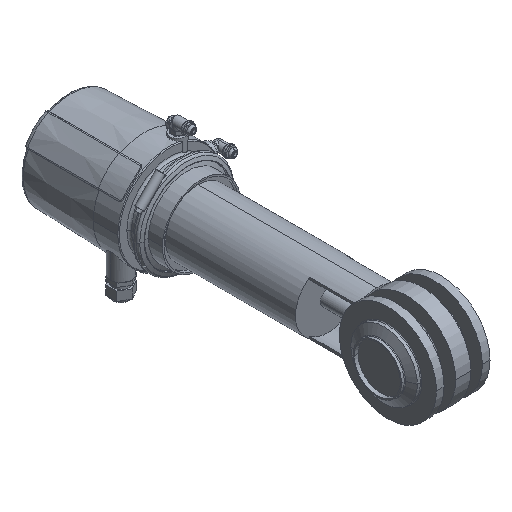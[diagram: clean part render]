
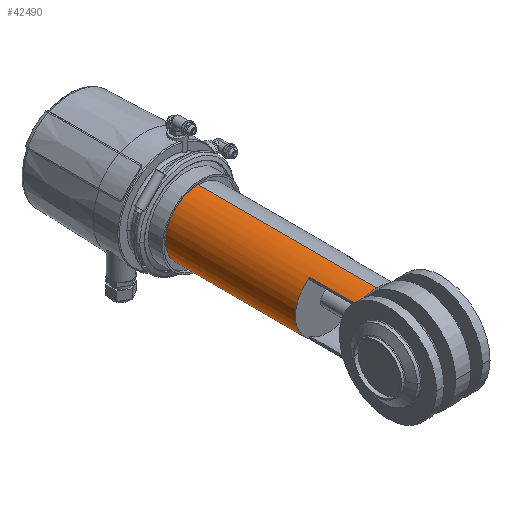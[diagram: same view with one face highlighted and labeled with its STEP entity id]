
A CAD part, isometric view. The second image highlights one B-rep face of the part: STEP entity #42490.
In plain terms, the highlighted cylindrical face has radius 42.5 mm (diameter 85 mm), a partial arc.
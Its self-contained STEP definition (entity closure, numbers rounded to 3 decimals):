
#11780=CARTESIAN_POINT('',(-406.622,30.802,
41.307));
#11790=VERTEX_POINT('',#11780);
#11820=CARTESIAN_POINT('',(-406.622,99.259,
41.307));
#11830=DIRECTION('',(0.,-1.,0.));
#11840=VECTOR('',#11830,1.);
#11850=LINE('',#11820,#11840);
#11860=CARTESIAN_POINT('',(-406.622,27.266,
41.307));
#11870=VERTEX_POINT('',#11860);
#11880=EDGE_CURVE('',#11790,#11870,#11850,.T.);
#31590=CARTESIAN_POINT('',(-405.974,27.914,
41.145));
#31600=VERTEX_POINT('',#31590);
#31640=CARTESIAN_POINT('',(-416.622,17.266,
0.));
#31650=DIRECTION('',(0.707,-0.707,0.));
#31660=DIRECTION('',(0.707,0.707,0.));
#31670=AXIS2_PLACEMENT_3D('',#31640,#31650,#31660);
#31680=ELLIPSE('',#31670,60.104,42.5);
#31690=EDGE_CURVE('',#31600,#11870,#31680,.T.);
#31790=CARTESIAN_POINT('',(-416.622,-333.208,
0.));
#31800=DIRECTION('',(0.,-0.113,0.994));
#31810=DIRECTION('',(0.,0.994,0.113));
#31820=AXIS2_PLACEMENT_3D('',#31790,#31800,#31810);
#31830=ELLIPSE('',#31820,375.431,42.5);
#31840=CARTESIAN_POINT('',(-404.122,23.311,
40.62));
#31850=VERTEX_POINT('',#31840);
#31860=EDGE_CURVE('',#31850,#31600,#31830,.T.);
#32120=CARTESIAN_POINT('',(-392.622,296.121,
35.075));
#32130=DIRECTION('',(0.,-1.,0.));
#32140=VECTOR('',#32130,1.);
#32150=LINE('',#32120,#32140);
#32160=CARTESIAN_POINT('',(-392.622,99.259,
35.075));
#32170=VERTEX_POINT('',#32160);
#32180=CARTESIAN_POINT('',(-392.622,41.266,
35.075));
#32190=VERTEX_POINT('',#32180);
#32200=EDGE_CURVE('',#32170,#32190,#32150,.T.);
#32830=CARTESIAN_POINT('',(-404.122,29.766,
40.62));
#32840=VERTEX_POINT('',#32830);
#32870=CARTESIAN_POINT('',(-416.622,17.266,
0.));
#32880=DIRECTION('',(-0.707,0.707,0.));
#32890=DIRECTION('',(-0.707,-0.707,0.));
#32900=AXIS2_PLACEMENT_3D('',#32870,#32880,#32890);
#32910=ELLIPSE('',#32900,60.104,42.5);
#32920=EDGE_CURVE('',#32840,#32190,#32910,.T.);
#34180=CARTESIAN_POINT('',(-416.622,99.259,
0.));
#34190=DIRECTION('',(0.,-1.,0.));
#34200=DIRECTION('',(0.,0.,-1.));
#34210=AXIS2_PLACEMENT_3D('',#34180,#34190,#34200);
#34220=CIRCLE('',#34210,42.5);
#34230=CARTESIAN_POINT('',(-392.622,99.259,
-35.075));
#34240=VERTEX_POINT('',#34230);
#34250=EDGE_CURVE('',#34240,#32170,#34220,.T.);
#35350=CARTESIAN_POINT('',(-404.122,33.302,
-40.62));
#35360=VERTEX_POINT('',#35350);
#35390=CARTESIAN_POINT('',(-416.622,20.802,
0.));
#35400=DIRECTION('',(-0.707,0.707,0.));
#35410=DIRECTION('',(0.707,0.707,0.));
#35420=AXIS2_PLACEMENT_3D('',#35390,#35400,#35410);
#35430=ELLIPSE('',#35420,60.104,42.5);
#35440=CARTESIAN_POINT('',(-401.564,35.859,
-39.743));
#35450=VERTEX_POINT('',#35440);
#35460=EDGE_CURVE('',#35450,#35360,#35430,.T.);
#36320=CARTESIAN_POINT('',(-404.122,29.766,
-40.62));
#36330=VERTEX_POINT('',#36320);
#36360=CARTESIAN_POINT('',(-404.122,296.121,
-40.62));
#36370=DIRECTION('',(0.,-1.,0.));
#36380=VECTOR('',#36370,1.);
#36390=LINE('',#36360,#36380);
#38120=CARTESIAN_POINT('',(-404.122,296.121,
40.62));
#38130=DIRECTION('',(0.,-1.,0.));
#38140=VECTOR('',#38130,1.);
#38150=LINE('',#38120,#38140);
#38160=EDGE_CURVE('',#32840,#31850,#38150,.T.);
#38810=EDGE_CURVE('',#35360,#36330,#36390,.T.);
#39650=CARTESIAN_POINT('',(-392.622,41.266,
-35.075));
#39660=VERTEX_POINT('',#39650);
#40030=CARTESIAN_POINT('',(-392.622,296.121,
-35.075));
#40040=DIRECTION('',(0.,-1.,0.));
#40050=VECTOR('',#40040,1.);
#40060=LINE('',#40030,#40050);
#40070=EDGE_CURVE('',#34240,#39660,#40060,.T.);
#41380=CARTESIAN_POINT('',(-416.622,17.266,
0.));
#41390=DIRECTION('',(0.707,-0.707,0.));
#41400=DIRECTION('',(-0.707,-0.707,0.));
#41410=AXIS2_PLACEMENT_3D('',#41380,#41390,#41400);
#41420=ELLIPSE('',#41410,60.104,42.5);
#41430=EDGE_CURVE('',#36330,#39660,#41420,.T.);
#41600=CARTESIAN_POINT('',(-416.622,35.859,
0.));
#41610=DIRECTION('',(0.,-1.,0.));
#41620=DIRECTION('',(0.,0.,-1.));
#41630=AXIS2_PLACEMENT_3D('',#41600,#41610,#41620);
#41640=CIRCLE('',#41630,42.5);
#41650=CARTESIAN_POINT('',(-416.622,35.859,-42.5));
#41660=VERTEX_POINT('',#41650);
#41670=EDGE_CURVE('',#41660,#35450,#41640,.T.);
#41890=CARTESIAN_POINT('',(-416.622,99.259,
0.));
#41900=DIRECTION('',(0.,-1.,0.));
#41910=DIRECTION('',(0.,0.,1.));
#41920=AXIS2_PLACEMENT_3D('',#41890,#41900,#41910);
#41930=CYLINDRICAL_SURFACE('',#41920,42.5);
#41940=ORIENTED_EDGE('',*,*,#35460,.F.);
#41950=ORIENTED_EDGE('',*,*,#38810,.F.);
#41960=ORIENTED_EDGE('',*,*,#41430,.F.);
#41970=ORIENTED_EDGE('',*,*,#40070,.T.);
#41980=ORIENTED_EDGE('',*,*,#34250,.F.);
#41990=ORIENTED_EDGE('',*,*,#32200,.F.);
#42000=ORIENTED_EDGE('',*,*,#32920,.T.);
#42010=ORIENTED_EDGE('',*,*,#38160,.F.);
#42020=ORIENTED_EDGE('',*,*,#31860,.F.);
#42030=ORIENTED_EDGE('',*,*,#31690,.F.);
#42040=ORIENTED_EDGE('',*,*,#11880,.T.);
#42050=CARTESIAN_POINT('',(-416.622,20.802,
0.));
#42060=DIRECTION('',(-0.707,0.707,0.));
#42070=DIRECTION('',(-0.707,-0.707,0.));
#42080=AXIS2_PLACEMENT_3D('',#42050,#42060,#42070);
#42090=ELLIPSE('',#42080,60.104,42.5);
#42100=CARTESIAN_POINT('',(-401.564,35.859,
39.743));
#42110=VERTEX_POINT('',#42100);
#42120=EDGE_CURVE('',#11790,#42110,#42090,.T.);
#42130=ORIENTED_EDGE('',*,*,#42120,.F.);
#42140=CARTESIAN_POINT('',(-416.622,35.859,
0.));
#42150=DIRECTION('',(0.,-1.,0.));
#42160=DIRECTION('',(0.,0.,1.));
#42170=AXIS2_PLACEMENT_3D('',#42140,#42150,#42160);
#42180=CIRCLE('',#42170,42.5);
#42190=CARTESIAN_POINT('',(-416.622,35.859,42.5));
#42200=VERTEX_POINT('',#42190);
#42210=EDGE_CURVE('',#42110,#42200,#42180,.T.);
#42220=ORIENTED_EDGE('',*,*,#42210,.F.);
#42230=CARTESIAN_POINT('',(-416.622,99.259,42.5));
#42240=DIRECTION('',(0.,-1.,0.));
#42250=VECTOR('',#42240,1.);
#42260=LINE('',#42230,#42250);
#42270=CARTESIAN_POINT('',(-416.622,269.259,42.5));
#42280=VERTEX_POINT('',#42270);
#42290=EDGE_CURVE('',#42280,#42200,#42260,.T.);
#42300=ORIENTED_EDGE('',*,*,#42290,.T.);
#42310=CARTESIAN_POINT('',(-416.622,269.259,
0.));
#42320=DIRECTION('',(0.,-1.,0.));
#42330=DIRECTION('',(0.,0.,1.));
#42340=AXIS2_PLACEMENT_3D('',#42310,#42320,#42330);
#42350=CIRCLE('',#42340,42.5);
#42360=CARTESIAN_POINT('',(-416.622,269.259,-42.5));
#42370=VERTEX_POINT('',#42360);
#42380=EDGE_CURVE('',#42370,#42280,#42350,.T.);
#42390=ORIENTED_EDGE('',*,*,#42380,.T.);
#42400=CARTESIAN_POINT('',(-416.622,99.259,-42.5));
#42410=DIRECTION('',(0.,-1.,0.));
#42420=VECTOR('',#42410,1.);
#42430=LINE('',#42400,#42420);
#42440=EDGE_CURVE('',#42370,#41660,#42430,.T.);
#42450=ORIENTED_EDGE('',*,*,#42440,.F.);
#42460=ORIENTED_EDGE('',*,*,#41670,.F.);
#42470=EDGE_LOOP('',(#42460,#42450,#42390,#42300,#42220,#42130,#42040,
#42030,#42020,#42010,#42000,#41990,#41980,#41970,#41960,#41950,#41940));
#42480=FACE_OUTER_BOUND('',#42470,.T.);
#42490=ADVANCED_FACE('',(#42480),#41930,.T.);
